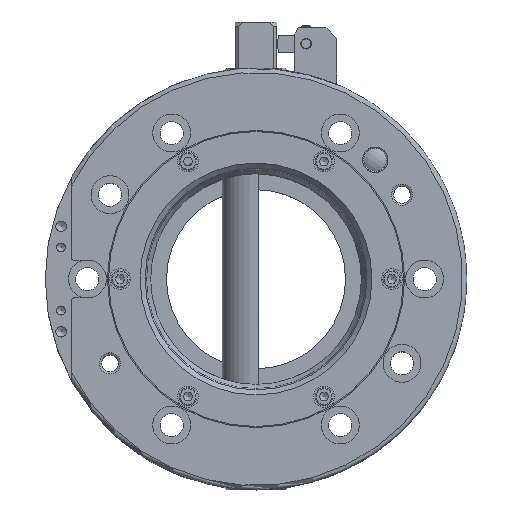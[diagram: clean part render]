
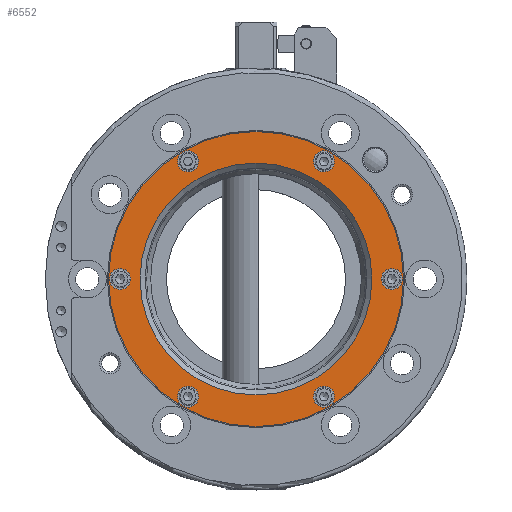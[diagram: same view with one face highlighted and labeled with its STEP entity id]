
A CAD part, top view. The second image highlights one B-rep face of the part: STEP entity #6552.
In plain terms, the highlighted planar face has unit normal (0, 0, 1).
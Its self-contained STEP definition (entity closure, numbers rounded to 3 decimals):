
#230=FACE_BOUND('',#1074,.T.);
#231=FACE_BOUND('',#1075,.T.);
#232=FACE_BOUND('',#1076,.T.);
#233=FACE_BOUND('',#1077,.T.);
#234=FACE_BOUND('',#1078,.T.);
#235=FACE_BOUND('',#1079,.T.);
#236=FACE_BOUND('',#1080,.T.);
#306=PLANE('',#7142);
#664=FACE_OUTER_BOUND('',#1073,.T.);
#1073=EDGE_LOOP('',(#4785,#4786));
#1074=EDGE_LOOP('',(#4787,#4788));
#1075=EDGE_LOOP('',(#4789,#4790));
#1076=EDGE_LOOP('',(#4791,#4792));
#1077=EDGE_LOOP('',(#4793,#4794));
#1078=EDGE_LOOP('',(#4795,#4796));
#1079=EDGE_LOOP('',(#4797,#4798));
#1080=EDGE_LOOP('',(#4799));
#2261=CIRCLE('',#7062,5.);
#2262=CIRCLE('',#7063,5.);
#2267=CIRCLE('',#7071,5.);
#2268=CIRCLE('',#7072,5.);
#2273=CIRCLE('',#7080,5.);
#2274=CIRCLE('',#7081,5.);
#2279=CIRCLE('',#7089,5.);
#2280=CIRCLE('',#7090,5.);
#2285=CIRCLE('',#7098,5.);
#2286=CIRCLE('',#7099,5.);
#2291=CIRCLE('',#7107,5.);
#2292=CIRCLE('',#7108,5.);
#2313=CIRCLE('',#7138,55.);
#2316=CIRCLE('',#7143,70.);
#2317=CIRCLE('',#7144,70.);
#2744=VERTEX_POINT('',#10789);
#2745=VERTEX_POINT('',#10790);
#2750=VERTEX_POINT('',#10806);
#2751=VERTEX_POINT('',#10807);
#2756=VERTEX_POINT('',#10823);
#2757=VERTEX_POINT('',#10824);
#2762=VERTEX_POINT('',#10840);
#2763=VERTEX_POINT('',#10841);
#2768=VERTEX_POINT('',#10857);
#2769=VERTEX_POINT('',#10858);
#2774=VERTEX_POINT('',#10874);
#2775=VERTEX_POINT('',#10875);
#2795=VERTEX_POINT('',#10933);
#2798=VERTEX_POINT('',#10943);
#2799=VERTEX_POINT('',#10944);
#3477=EDGE_CURVE('',#2744,#2745,#2261,.T.);
#3478=EDGE_CURVE('',#2745,#2744,#2262,.T.);
#3485=EDGE_CURVE('',#2750,#2751,#2267,.T.);
#3486=EDGE_CURVE('',#2751,#2750,#2268,.T.);
#3493=EDGE_CURVE('',#2756,#2757,#2273,.T.);
#3494=EDGE_CURVE('',#2757,#2756,#2274,.T.);
#3501=EDGE_CURVE('',#2762,#2763,#2279,.T.);
#3502=EDGE_CURVE('',#2763,#2762,#2280,.T.);
#3509=EDGE_CURVE('',#2768,#2769,#2285,.T.);
#3510=EDGE_CURVE('',#2769,#2768,#2286,.T.);
#3517=EDGE_CURVE('',#2774,#2775,#2291,.T.);
#3518=EDGE_CURVE('',#2775,#2774,#2292,.T.);
#3547=EDGE_CURVE('',#2795,#2795,#2313,.T.);
#3551=EDGE_CURVE('',#2798,#2799,#2316,.T.);
#3552=EDGE_CURVE('',#2799,#2798,#2317,.T.);
#4785=ORIENTED_EDGE('',*,*,#3551,.T.);
#4786=ORIENTED_EDGE('',*,*,#3552,.T.);
#4787=ORIENTED_EDGE('',*,*,#3477,.T.);
#4788=ORIENTED_EDGE('',*,*,#3478,.T.);
#4789=ORIENTED_EDGE('',*,*,#3485,.T.);
#4790=ORIENTED_EDGE('',*,*,#3486,.T.);
#4791=ORIENTED_EDGE('',*,*,#3493,.T.);
#4792=ORIENTED_EDGE('',*,*,#3494,.T.);
#4793=ORIENTED_EDGE('',*,*,#3501,.T.);
#4794=ORIENTED_EDGE('',*,*,#3502,.T.);
#4795=ORIENTED_EDGE('',*,*,#3509,.T.);
#4796=ORIENTED_EDGE('',*,*,#3510,.T.);
#4797=ORIENTED_EDGE('',*,*,#3517,.T.);
#4798=ORIENTED_EDGE('',*,*,#3518,.T.);
#4799=ORIENTED_EDGE('',*,*,#3547,.F.);
#6552=ADVANCED_FACE('',(#664,#230,#231,#232,#233,#234,#235,#236),#306,.T.);
#7062=AXIS2_PLACEMENT_3D('',#10791,#8175,#8176);
#7063=AXIS2_PLACEMENT_3D('',#10792,#8177,#8178);
#7071=AXIS2_PLACEMENT_3D('',#10808,#8195,#8196);
#7072=AXIS2_PLACEMENT_3D('',#10809,#8197,#8198);
#7080=AXIS2_PLACEMENT_3D('',#10825,#8215,#8216);
#7081=AXIS2_PLACEMENT_3D('',#10826,#8217,#8218);
#7089=AXIS2_PLACEMENT_3D('',#10842,#8235,#8236);
#7090=AXIS2_PLACEMENT_3D('',#10843,#8237,#8238);
#7098=AXIS2_PLACEMENT_3D('',#10859,#8255,#8256);
#7099=AXIS2_PLACEMENT_3D('',#10860,#8257,#8258);
#7107=AXIS2_PLACEMENT_3D('',#10876,#8275,#8276);
#7108=AXIS2_PLACEMENT_3D('',#10877,#8277,#8278);
#7138=AXIS2_PLACEMENT_3D('',#10935,#8345,#8346);
#7142=AXIS2_PLACEMENT_3D('',#10942,#8354,#8355);
#7143=AXIS2_PLACEMENT_3D('',#10945,#8356,#8357);
#7144=AXIS2_PLACEMENT_3D('',#10946,#8358,#8359);
#8175=DIRECTION('center_axis',(0.,0.,
-1.));
#8176=DIRECTION('ref_axis',(-0.5,-0.866,0.));
#8177=DIRECTION('center_axis',(0.,0.,
-1.));
#8178=DIRECTION('ref_axis',(-0.5,-0.866,0.));
#8195=DIRECTION('center_axis',(0.,0.,
-1.));
#8196=DIRECTION('ref_axis',(-1.,0.,0.));
#8197=DIRECTION('center_axis',(0.,0.,
-1.));
#8198=DIRECTION('ref_axis',(-1.,0.,0.));
#8215=DIRECTION('center_axis',(0.,0.,
-1.));
#8216=DIRECTION('ref_axis',(-0.5,0.866,0.));
#8217=DIRECTION('center_axis',(0.,0.,
-1.));
#8218=DIRECTION('ref_axis',(-0.5,0.866,0.));
#8235=DIRECTION('center_axis',(0.,0.,
-1.));
#8236=DIRECTION('ref_axis',(0.5,0.866,0.));
#8237=DIRECTION('center_axis',(0.,0.,
-1.));
#8238=DIRECTION('ref_axis',(0.5,0.866,0.));
#8255=DIRECTION('center_axis',(0.,0.,
-1.));
#8256=DIRECTION('ref_axis',(0.5,-0.866,0.));
#8257=DIRECTION('center_axis',(0.,0.,
-1.));
#8258=DIRECTION('ref_axis',(0.5,-0.866,0.));
#8275=DIRECTION('center_axis',(0.,0.,
-1.));
#8276=DIRECTION('ref_axis',(1.,0.,0.));
#8277=DIRECTION('center_axis',(0.,0.,
-1.));
#8278=DIRECTION('ref_axis',(1.,0.,0.));
#8345=DIRECTION('center_axis',(0.,0.,
1.));
#8346=DIRECTION('ref_axis',(0.,1.,0.));
#8354=DIRECTION('center_axis',(0.,0.,
1.));
#8355=DIRECTION('ref_axis',(1.,0.,0.));
#8356=DIRECTION('center_axis',(0.,0.,
1.));
#8357=DIRECTION('ref_axis',(0.,-1.,0.));
#8358=DIRECTION('center_axis',(0.,0.,
1.));
#8359=DIRECTION('ref_axis',(0.,-1.,0.));
#10789=CARTESIAN_POINT('',(29.75,51.529,32.5));
#10790=CARTESIAN_POINT('',(34.75,60.189,32.5));
#10791=CARTESIAN_POINT('Origin',(32.25,55.859,32.5));
#10792=CARTESIAN_POINT('Origin',(32.25,55.859,32.5));
#10806=CARTESIAN_POINT('',(59.5,0.,32.5));
#10807=CARTESIAN_POINT('',(69.5,0.,32.5));
#10808=CARTESIAN_POINT('Origin',(64.5,0.,32.5));
#10809=CARTESIAN_POINT('Origin',(64.5,0.,32.5));
#10823=CARTESIAN_POINT('',(29.75,-51.529,32.5));
#10824=CARTESIAN_POINT('',(34.75,-60.189,32.5));
#10825=CARTESIAN_POINT('Origin',(32.25,-55.859,32.5));
#10826=CARTESIAN_POINT('Origin',(32.25,-55.859,32.5));
#10840=CARTESIAN_POINT('',(-29.75,-51.529,32.5));
#10841=CARTESIAN_POINT('',(-34.75,-60.189,32.5));
#10842=CARTESIAN_POINT('Origin',(-32.25,-55.859,32.5));
#10843=CARTESIAN_POINT('Origin',(-32.25,-55.859,32.5));
#10857=CARTESIAN_POINT('',(-29.75,51.529,32.5));
#10858=CARTESIAN_POINT('',(-34.75,60.189,32.5));
#10859=CARTESIAN_POINT('Origin',(-32.25,55.859,32.5));
#10860=CARTESIAN_POINT('Origin',(-32.25,55.859,32.5));
#10874=CARTESIAN_POINT('',(-59.5,0.,32.5));
#10875=CARTESIAN_POINT('',(-69.5,0.,32.5));
#10876=CARTESIAN_POINT('Origin',(-64.5,0.,32.5));
#10877=CARTESIAN_POINT('Origin',(-64.5,0.,32.5));
#10933=CARTESIAN_POINT('',(0.,-55.,32.5));
#10935=CARTESIAN_POINT('Origin',(0.,0.,
32.5));
#10942=CARTESIAN_POINT('Origin',(0.,-61.,32.5));
#10943=CARTESIAN_POINT('',(0.,-70.,32.5));
#10944=CARTESIAN_POINT('',(0.,70.,32.5));
#10945=CARTESIAN_POINT('Origin',(0.,0.,
32.5));
#10946=CARTESIAN_POINT('Origin',(0.,0.,
32.5));
